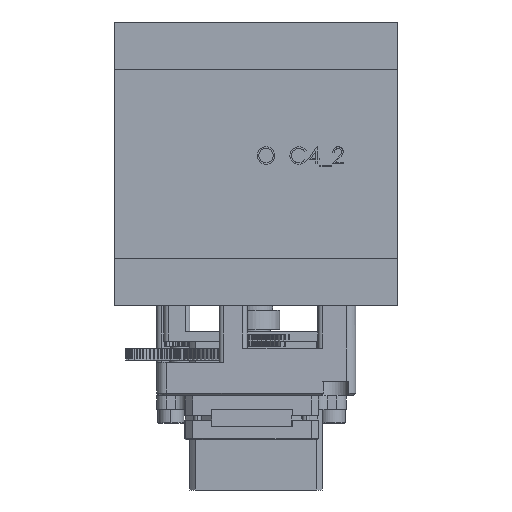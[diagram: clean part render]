
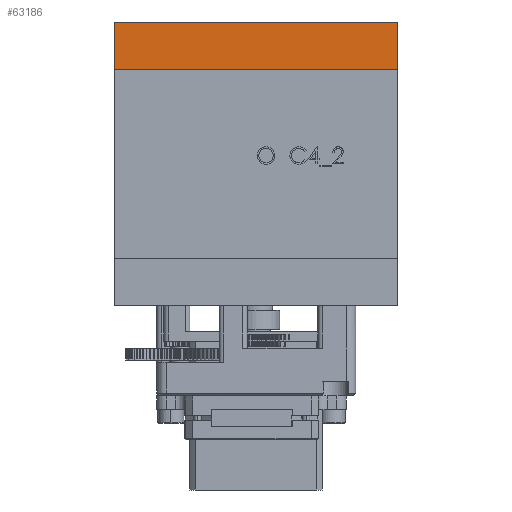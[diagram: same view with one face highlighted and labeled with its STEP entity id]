
A CAD part, left-side view. The second image highlights one B-rep face of the part: STEP entity #63186.
In plain terms, the highlighted planar face has unit normal (-1, 0, 0) as drawn and (0, 1, 0) by its records, which use the part's own axes.
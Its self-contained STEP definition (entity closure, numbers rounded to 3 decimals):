
#5368 = VECTOR ( 'NONE', #15480, 1000. ) ;
#5392 = LINE ( 'NONE', #15493, #5368 ) ;
#13893 = CARTESIAN_POINT ( 'NONE',  ( -30., 25., 0. ) ) ;
#13896 = CARTESIAN_POINT ( 'NONE',  ( 30., 25., 10. ) ) ;
#13963 = CARTESIAN_POINT ( 'NONE',  ( -30., 25., 10. ) ) ;
#15480 = DIRECTION ( 'NONE',  ( -1., 0., 0. ) ) ;
#15493 = CARTESIAN_POINT ( 'NONE',  ( -30., 25., 0. ) ) ;
#29279 = EDGE_CURVE ( 'NONE', #48803, #48770, #35265, .T. ) ;
#29284 = EDGE_CURVE ( 'NONE', #48759, #48803, #35279, .T. ) ;
#29288 = EDGE_CURVE ( 'NONE', #48759, #48862, #35216, .T. ) ;
#30591 = EDGE_CURVE ( 'NONE', #48862, #48770, #5392, .T. ) ;
#31026 = CARTESIAN_POINT ( 'NONE',  ( -30., 25., 10. ) ) ;
#31029 = DIRECTION ( 'NONE',  ( 0., 0., -1. ) ) ;
#31082 = CARTESIAN_POINT ( 'NONE',  ( 30., 25., 10. ) ) ;
#31097 = CARTESIAN_POINT ( 'NONE',  ( -30., 25., 10. ) ) ;
#31103 = DIRECTION ( 'NONE',  ( -1., 0., 0. ) ) ;
#31105 = DIRECTION ( 'NONE',  ( 0., 0., -1. ) ) ;
#35216 = LINE ( 'NONE', #31082, #35273 ) ;
#35265 = LINE ( 'NONE', #31026, #35294 ) ;
#35273 = VECTOR ( 'NONE', #31105, 1000. ) ;
#35279 = LINE ( 'NONE', #31097, #35287 ) ;
#35287 = VECTOR ( 'NONE', #31103, 1000. ) ;
#35294 = VECTOR ( 'NONE', #31029, 1000. ) ;
#37279 = AXIS2_PLACEMENT_3D ( 'NONE', #57199, #57151, #57186 ) ;
#37400 = ORIENTED_EDGE ( 'NONE', *, *, #29288, .T. ) ;
#37511 = ORIENTED_EDGE ( 'NONE', *, *, #29284, .F. ) ;
#37529 = ORIENTED_EDGE ( 'NONE', *, *, #29279, .F. ) ;
#37570 = ORIENTED_EDGE ( 'NONE', *, *, #30591, .T. ) ;
#40168 = FACE_OUTER_BOUND ( 'NONE', #76351, .T. ) ;
#48759 = VERTEX_POINT ( 'NONE', #13896 ) ;
#48770 = VERTEX_POINT ( 'NONE', #13893 ) ;
#48803 = VERTEX_POINT ( 'NONE', #13963 ) ;
#48862 = VERTEX_POINT ( 'NONE', #54925 ) ;
#54925 = CARTESIAN_POINT ( 'NONE',  ( 30., 25., 0. ) ) ;
#57142 = PLANE ( 'NONE',  #37279 ) ;
#57151 = DIRECTION ( 'NONE',  ( 0., -1., 0. ) ) ;
#57186 = DIRECTION ( 'NONE',  ( 0., 0., -1. ) ) ;
#57199 = CARTESIAN_POINT ( 'NONE',  ( -30., 25., 10. ) ) ;
#63186 = ADVANCED_FACE ( 'NONE', ( #40168 ), #57142, .F. ) ;
#76351 = EDGE_LOOP ( 'NONE', ( #37570, #37529, #37511, #37400 ) ) ;
